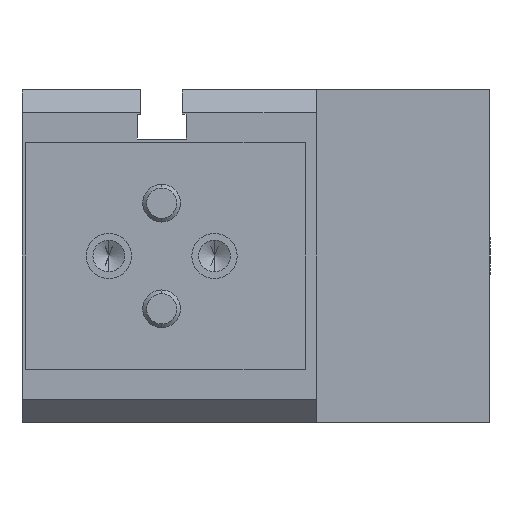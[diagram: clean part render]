
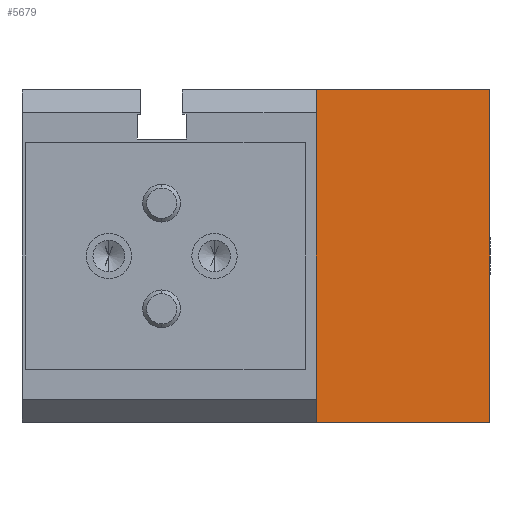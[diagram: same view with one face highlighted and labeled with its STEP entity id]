
A CAD part, left-side view. The second image highlights one B-rep face of the part: STEP entity #5679.
In plain terms, the highlighted planar face has unit normal (-1, 0, 0).
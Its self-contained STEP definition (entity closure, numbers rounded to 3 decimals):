
#51 = VECTOR ( 'NONE', #5602, 1000. ) ;
#515 = DIRECTION ( 'NONE',  ( 1., 0., 0. ) ) ;
#2127 = CARTESIAN_POINT ( 'NONE',  ( -32., 0., -22. ) ) ;
#2565 = LINE ( 'NONE', #18169, #41927 ) ;
#2782 = VERTEX_POINT ( 'NONE', #2127 ) ;
#2947 = EDGE_CURVE ( 'NONE', #2782, #14370, #2565, .T. ) ;
#4819 = CARTESIAN_POINT ( 'NONE',  ( -32., 0., 22. ) ) ;
#5602 = DIRECTION ( 'NONE',  ( 0., 0., -1. ) ) ;
#5679 = ADVANCED_FACE ( 'NONE', ( #35485 ), #18991, .F. ) ;
#6422 = EDGE_CURVE ( 'NONE', #39462, #34657, #38273, .T. ) ;
#8592 = CARTESIAN_POINT ( 'NONE',  ( -32., 0., -22. ) ) ;
#8865 = CARTESIAN_POINT ( 'NONE',  ( -32., 23., 22. ) ) ;
#9446 = ORIENTED_EDGE ( 'NONE', *, *, #6422, .T. ) ;
#12590 = DIRECTION ( 'NONE',  ( 0., -1., 0. ) ) ;
#12622 = VECTOR ( 'NONE', #12590, 1000. ) ;
#13684 = ORIENTED_EDGE ( 'NONE', *, *, #2947, .T. ) ;
#14370 = VERTEX_POINT ( 'NONE', #4819 ) ;
#14579 = EDGE_LOOP ( 'NONE', ( #13684, #29910, #9446, #15496 ) ) ;
#15109 = VECTOR ( 'NONE', #34517, 1000. ) ;
#15496 = ORIENTED_EDGE ( 'NONE', *, *, #20030, .T. ) ;
#18169 = CARTESIAN_POINT ( 'NONE',  ( -32., 0., 22. ) ) ;
#18991 = PLANE ( 'NONE',  #35079 ) ;
#20030 = EDGE_CURVE ( 'NONE', #34657, #2782, #43416, .T. ) ;
#22708 = CARTESIAN_POINT ( 'NONE',  ( -32., 23., 22. ) ) ;
#25630 = DIRECTION ( 'NONE',  ( 0., 0., 1. ) ) ;
#26444 = DIRECTION ( 'NONE',  ( 0., 0., -1. ) ) ;
#29910 = ORIENTED_EDGE ( 'NONE', *, *, #40638, .F. ) ;
#31312 = CARTESIAN_POINT ( 'NONE',  ( -32., 23., 22. ) ) ;
#32315 = LINE ( 'NONE', #8865, #12622 ) ;
#34517 = DIRECTION ( 'NONE',  ( 0., -1., 0. ) ) ;
#34657 = VERTEX_POINT ( 'NONE', #36646 ) ;
#35079 = AXIS2_PLACEMENT_3D ( 'NONE', #22708, #515, #26444 ) ;
#35485 = FACE_OUTER_BOUND ( 'NONE', #14579, .T. ) ;
#36646 = CARTESIAN_POINT ( 'NONE',  ( -32., 23., -22. ) ) ;
#38273 = LINE ( 'NONE', #38808, #51 ) ;
#38808 = CARTESIAN_POINT ( 'NONE',  ( -32., 23., 22. ) ) ;
#39462 = VERTEX_POINT ( 'NONE', #31312 ) ;
#40638 = EDGE_CURVE ( 'NONE', #39462, #14370, #32315, .T. ) ;
#41927 = VECTOR ( 'NONE', #25630, 1000. ) ;
#43416 = LINE ( 'NONE', #8592, #15109 ) ;
